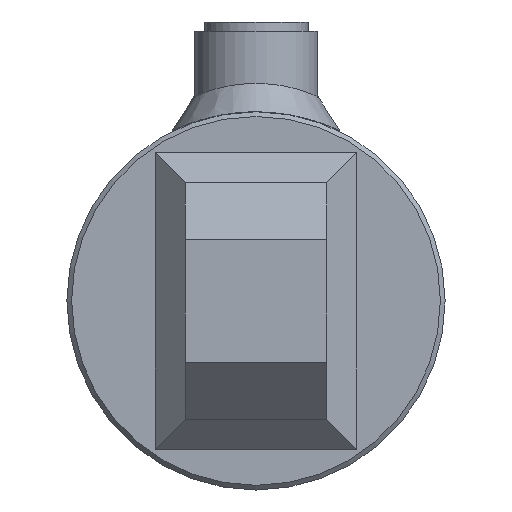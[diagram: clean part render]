
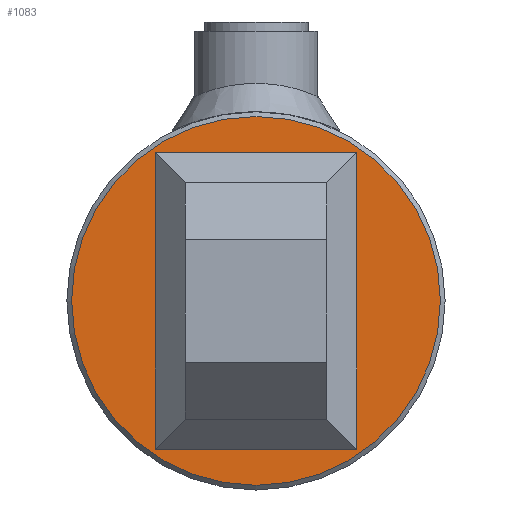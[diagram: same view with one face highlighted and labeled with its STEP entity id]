
A CAD part, left-side view. The second image highlights one B-rep face of the part: STEP entity #1083.
In plain terms, the highlighted planar face has unit normal (-1, 0, 0).
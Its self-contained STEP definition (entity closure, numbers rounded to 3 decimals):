
#1083 = ADVANCED_FACE( '', ( #2027 ), #2028, .T. );
#2027 = FACE_OUTER_BOUND( '', #4993, .T. );
#2028 = PLANE( '', #4994 );
#4993 = EDGE_LOOP( '', ( #6988 ) );
#4994 = AXIS2_PLACEMENT_3D( '', #6989, #6990, #6991 );
#6988 = ORIENTED_EDGE( '', *, *, #7667, .T. );
#6989 = CARTESIAN_POINT( '', ( -12., 0., 0. ) );
#6990 = DIRECTION( '', ( -1., 0., 0. ) );
#6991 = DIRECTION( '', ( 0., -1., 0. ) );
#7667 = EDGE_CURVE( '', #8458, #8458, #8459, .T. );
#8458 = VERTEX_POINT( '', #9741 );
#8459 = CIRCLE( '', #9742, 39. );
#9741 = CARTESIAN_POINT( '', ( -12., -39., 0. ) );
#9742 = AXIS2_PLACEMENT_3D( '', #11145, #11146, #11147 );
#11145 = CARTESIAN_POINT( '', ( -12., 0., 0. ) );
#11146 = DIRECTION( '', ( -1., 0., 0. ) );
#11147 = DIRECTION( '', ( 0., -1., 0. ) );
